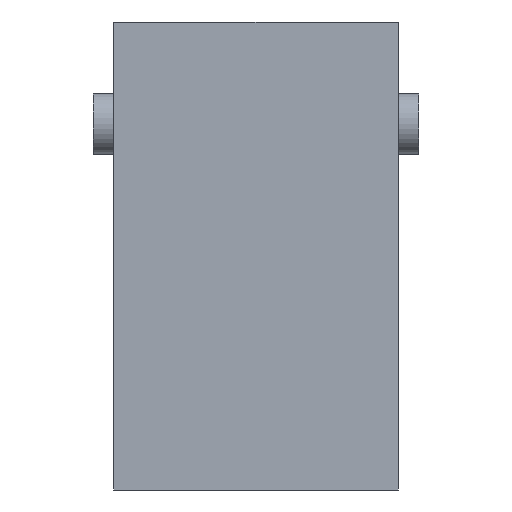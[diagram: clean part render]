
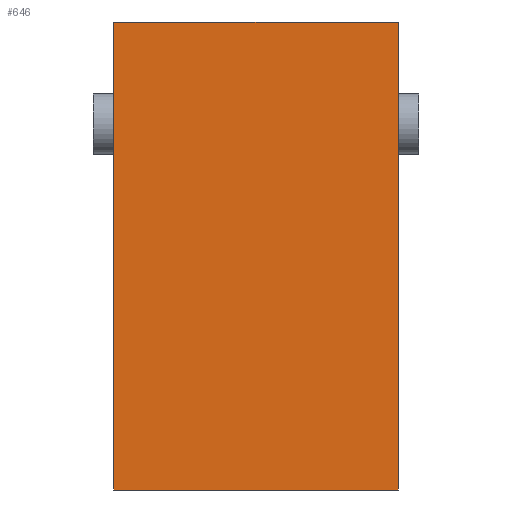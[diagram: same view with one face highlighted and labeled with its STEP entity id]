
A CAD part, left-side view. The second image highlights one B-rep face of the part: STEP entity #646.
In plain terms, the highlighted planar face has unit normal (-1, 0, 0).
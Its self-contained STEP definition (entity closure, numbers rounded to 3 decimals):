
#465=CARTESIAN_POINT('',(-7.528,6.187,0.0));
#466=VERTEX_POINT('',#465);
#483=CARTESIAN_POINT('',(-7.528,-7.813,0.0));
#484=VERTEX_POINT('',#483);
#491=CARTESIAN_POINT('',(-7.528,-7.813,0.0));
#492=DIRECTION('',(0.0,1.0,0.0));
#493=VECTOR('',#492,14.);
#494=LINE('',#491,#493);
#495=EDGE_CURVE('',#484,#466,#494,.T.);
#575=CARTESIAN_POINT('',(-7.528,6.187,23.));
#576=VERTEX_POINT('',#575);
#592=CARTESIAN_POINT('',(-7.528,6.187,0.0));
#593=DIRECTION('',(0.0,0.0,1.0));
#594=VECTOR('',#593,23.);
#595=LINE('',#592,#594);
#596=EDGE_CURVE('',#466,#576,#595,.T.);
#623=CARTESIAN_POINT('',(-7.528,-7.813,0.0));
#624=DIRECTION('',(-1.0,0.0,0.0));
#625=DIRECTION('',(0.0,0.0,1.0));
#626=AXIS2_PLACEMENT_3D('',#623,#624,#625);
#627=PLANE('',#626);
#628=CARTESIAN_POINT('',(-7.528,-7.813,23.));
#629=VERTEX_POINT('',#628);
#630=CARTESIAN_POINT('',(-7.528,-7.813,23.));
#631=DIRECTION('',(0.0,1.0,0.0));
#632=VECTOR('',#631,14.);
#633=LINE('',#630,#632);
#634=EDGE_CURVE('',#629,#576,#633,.T.);
#635=ORIENTED_EDGE('',*,*,#634,.T.);
#636=ORIENTED_EDGE('',*,*,#596,.F.);
#637=ORIENTED_EDGE('',*,*,#495,.F.);
#638=CARTESIAN_POINT('',(-7.528,-7.813,0.0));
#639=DIRECTION('',(0.0,0.0,1.0));
#640=VECTOR('',#639,23.);
#641=LINE('',#638,#640);
#642=EDGE_CURVE('',#484,#629,#641,.T.);
#643=ORIENTED_EDGE('',*,*,#642,.T.);
#644=EDGE_LOOP('',(#635,#636,#637,#643));
#645=FACE_OUTER_BOUND('',#644,.T.);
#646=ADVANCED_FACE('',(#645),#627,.T.);
